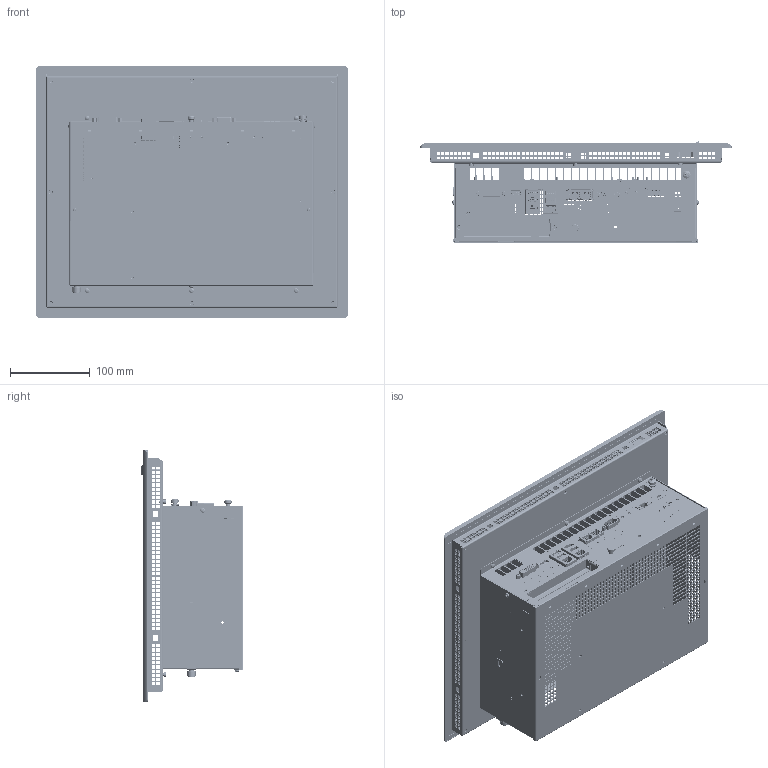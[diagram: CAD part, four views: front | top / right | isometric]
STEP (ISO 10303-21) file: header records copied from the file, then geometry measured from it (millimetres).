
FILE_DESCRIPTION (( 'STEP AP214' ), '1' );
FILE_NAME ('C6P34-Panel_150_Res_S1.STEP', '2019-09-19T13:43:26', ( '' ), ( '' ), 'SwSTEP 2.0', 'SolidWorks 2018', '' );
FILE_SCHEMA (( 'AUTOMOTIVE_DESIGN' ));
Length unit declared in the file: millimetre
Products named in the file (159): 65720029; D02201701; piazzuola_de800_di370; 66320015; 57902482; 69111028; 62920012; 7359_056; 7397_227_Depopolato; 51524089; 57902481; 65720078; 21404036; 59702267; 58755004; 58702102_Default<A macchina>; 65720030; 23330039; 52536147; 57936014; 55202070; 7397_227; 14300025; 59302344; 21410046; 56636564; 58102117; 48000024; 69112004; 21410015; 66320016; 21410056; 69111027; 62920009; 52536147_Default<A macchina>; 62920002; 66320001; 21409042; 21408088; C6P34-Panel_150_Res_S1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
Assembly tree (112 placements, depth 4):
  65720029
  piazzuola_de800_di370
  66320015
  69111028
  7359_056
Bounding box: 390 x 128.34 x 315 mm (x, y, z)
Volume: 1386428.8 mm3; surface area: 1534821.5 mm2
Topology: 192 solids, 210 shells, 26010 faces, 73116 edges, 47910 vertices
Faces by surface type: plane 20132, cylinder 4469, bspline 775, cone 503, torus 111, sphere 20
Full cylindrical faces by diameter (mm): 0.3 x9, 0.434 x1, 0.6 x30, 0.65 x6, 0.7 x165, 0.8 x36, 0.85 x66, 0.9 x175, 0.95 x11, 1 x119, 1.1 x3, 1.2 x10, 1.32 x2, 1.35 x4, 1.4 x8, 1.5 x6, 1.6 x7, 1.7 x4, 1.8 x3, 1.9 x4, 1.95 x4, 2 x1, 2.05 x1, 2.3 x18, 2.4 x9, 2.5 x18, 2.6 x5, 2.8 x3, 2.874 x1, 3 x46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
Entity records: 776197 total; most frequent: CARTESIAN_POINT 164824, ORIENTED_EDGE 126232, DIRECTION 111782, EDGE_CURVE 63506, VECTOR 53514, LINE 53514, VERTEX_POINT 42203, EDGE_LOOP 29632
